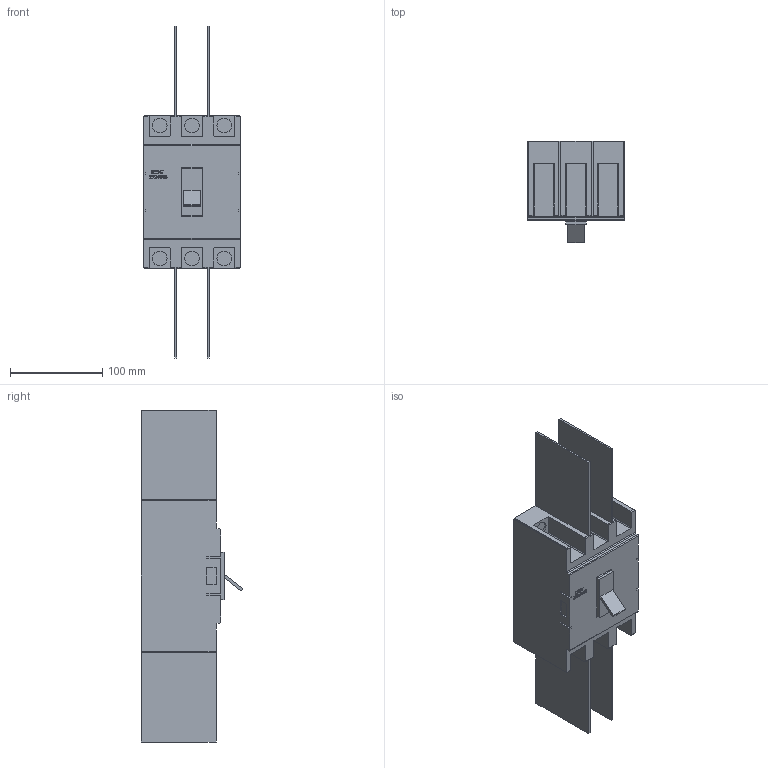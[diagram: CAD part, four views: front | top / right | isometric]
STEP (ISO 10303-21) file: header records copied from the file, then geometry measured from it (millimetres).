
FILE_DESCRIPTION(/* description */ ('','CAx-IF Rec.Pracs.---Representation and Presentation of Product Manufacturing Information (PMI)---3.8---2014-02-18'),/* implementation_level */ '2;1');
FILE_NAME(/* name */ 'C:\Users\ILYA\Desktop\NM1\Авт. выкл. NM1-250S3Р 180A 25кА (CHINT)\Авт. выкл. NM1-250H3Р 180A 50кА (CHINT).stp',/* time_stamp */ '2017-08-19T07:49:26+03:00',/* author */ ('ILYA'),/* organization */ (''),/* preprocessor_version */ 'ST-DEVELOPER v16.1',/* originating_system */ 'Autodesk Inventor 2016',/* authorisation */ '');
FILE_SCHEMA (('AP242_MANAGED_MODEL_BASED_3D_ENGINEERING_MIM_LF { 1 0 10303 442 1 1 4 }'));
Length unit declared in the file: millimetre
Products named in the file (1): Авт. выкл. NM1-25
0H3Р 180A 50кА (CHINT)
Bounding box: 105 x 109.79 x 360 mm (x, y, z)
Volume: 1349220.7 mm3; surface area: 162427.9 mm2
Topology: 1 solids, 1 shells, 321 faces, 881 edges, 586 vertices
Faces by surface type: plane 214, bspline 69, cylinder 38
Full cylindrical faces by diameter (mm): 16 x6
Entity records: 10729 total; most frequent: CARTESIAN_POINT 2888, ORIENTED_EDGE 1750, DIRECTION 1319, EDGE_CURVE 875, LINE 661, VECTOR 661, VERTEX_POINT 586, EDGE_LOOP 351
